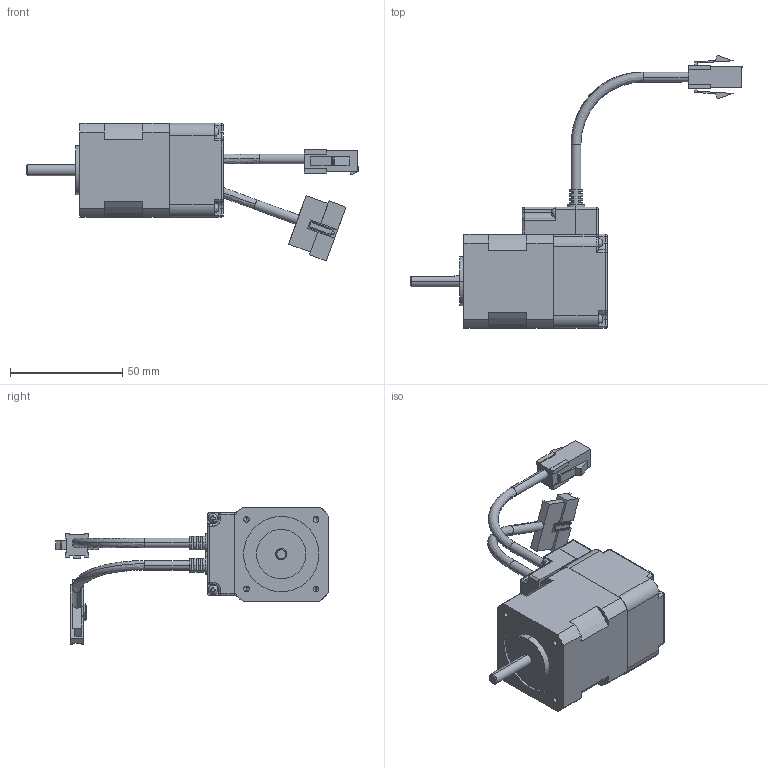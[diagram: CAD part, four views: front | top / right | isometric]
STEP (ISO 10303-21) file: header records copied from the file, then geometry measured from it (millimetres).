
FILE_DESCRIPTION (( 'STEP AP203' ), '1' );
FILE_NAME ('M11-MO-042-02-R00.STEP', '2014-12-21T04:57:03', ( 'Registered User' ), ( 'Microsoft Corporation' ), 'SwSTEP 2.0', 'SolidWorks 2013', '' );
FILE_SCHEMA (( 'CONFIG_CONTROL_DESIGN' ));
Length unit declared in the file: millimetre
Products named in the file (10): EzM-42S Assembly_091218; M11-MO-042-02-R00(EzM-42M-01)_湀_; M11-MO-042-02-R00; MainEZSV_42_Cable_Cover-1-1; MainEZSV_42_Encoder_Cover-1-1; MainEncoder_Mounting_Plate-1-6; MainM3-screw-1-5; Mainconnector_e-1-9; Maincable-1-6; MainEzM-42S-assembly-1
Assembly tree (14 placements, depth 4):
  M11-MO-042-02-R00
    M11-MO-042-02-R00(EzM-42M-01)_湀_
    EzM-42S Assembly_091218
      MainEzM-42S-assembly-1
        MainEZSV_42_Cable_Cover-1-1
        MainEZSV_42_Encoder_Cover-1-1
        MainEncoder_Mounting_Plate-1-6
        MainM3-screw-1-5  x6
        Mainconnector_e-1-9
        Maincable-1-6
Bounding box: 148 x 121.61 x 61.49 mm (x, y, z)
Volume: 89628 mm3; surface area: 38486.3 mm2
Topology: 12 solids, 12 shells, 788 faces, 2056 edges, 1318 vertices
Faces by surface type: plane 433, cylinder 299, bspline 34, cone 22
Entity records: 22429 total; most frequent: CARTESIAN_POINT 4278, DIRECTION 3654, ORIENTED_EDGE 3468, EDGE_CURVE 1734, AXIS2_PLACEMENT_3D 1280, VERTEX_POINT 1128, VECTOR 1094, LINE 1094
